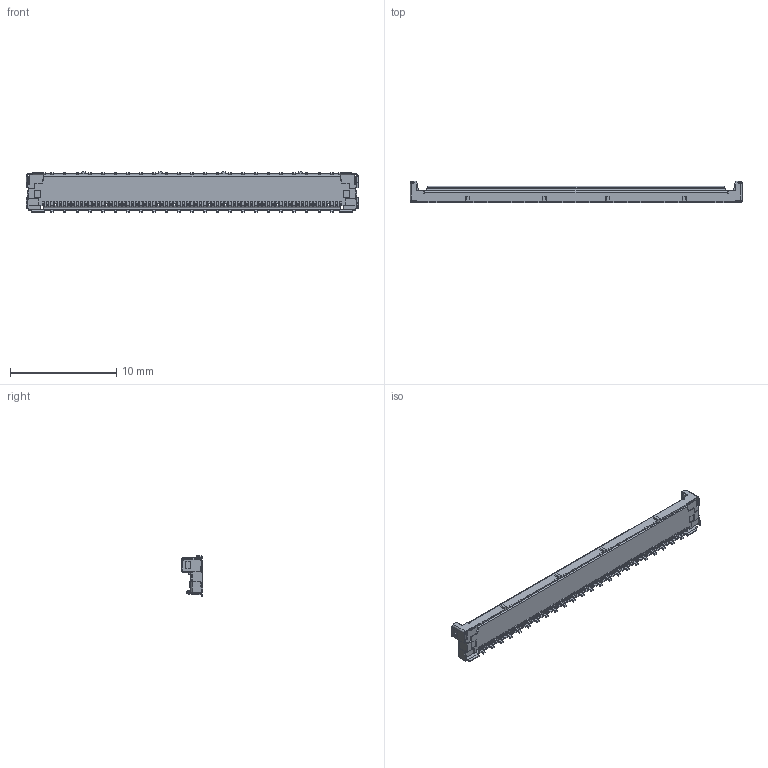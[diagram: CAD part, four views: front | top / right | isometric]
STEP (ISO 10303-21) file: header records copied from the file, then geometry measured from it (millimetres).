
FILE_DESCRIPTION (( 'STEP AP214' ), '1' );
FILE_NAME ('20879-070E-#1.STEP', '2025-04-01T08:09:50', ( '' ), ( '' ), 'SwSTEP 2.0', 'SolidWorks 2023', '' );
FILE_SCHEMA (( 'AUTOMOTIVE_DESIGN' ));
Length unit declared in the file: millimetre
Products named in the file (1): 20879-070E-#1
Bounding box: 31.27 x 2 x 3.77 mm (x, y, z)
Volume: 101.5 mm3; surface area: 488.5 mm2
Topology: 1 solids, 1 shells, 1853 faces, 5482 edges, 3616 vertices
Faces by surface type: plane 1372, cylinder 481
Entity records: 61531 total; most frequent: CARTESIAN_POINT 11042, ORIENTED_EDGE 10964, DIRECTION 10176, EDGE_CURVE 5482, LINE 4464, VECTOR 4464, VERTEX_POINT 3616, AXIS2_PLACEMENT_3D 2856
